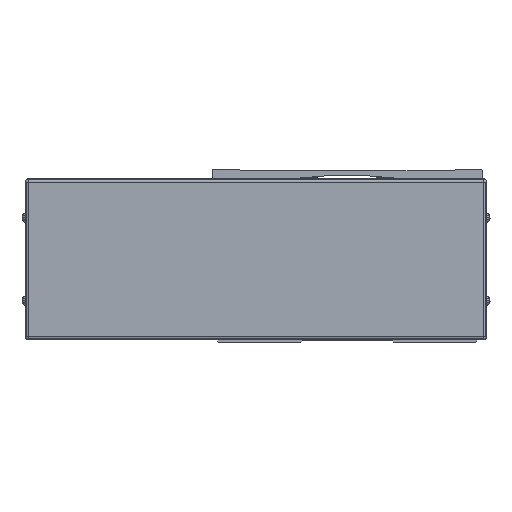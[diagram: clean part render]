
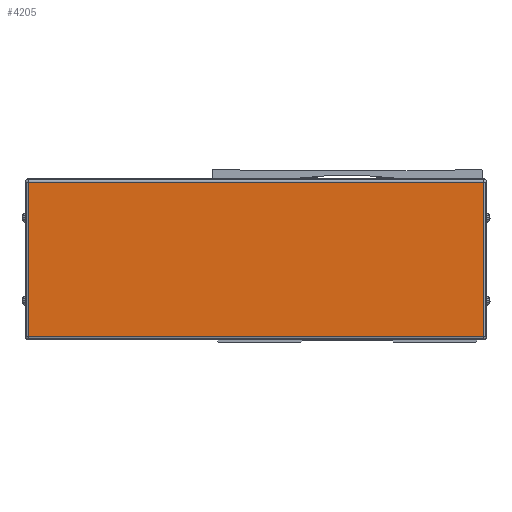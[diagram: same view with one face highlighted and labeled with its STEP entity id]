
A CAD part, front view. The second image highlights one B-rep face of the part: STEP entity #4205.
In plain terms, the highlighted planar face has unit normal (0, -1, 0).
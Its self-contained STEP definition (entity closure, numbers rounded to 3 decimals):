
#4205=ADVANCED_FACE('',(#9472),#9473,.F.);
#9472=FACE_OUTER_BOUND('',#16146,.T.);
#9473=PLANE('',#16147);
#16146=EDGE_LOOP('',(#30888,#30889,#30890,#30891));
#16147=AXIS2_PLACEMENT_3D('',#30892,#30893,#30894);
#30888=ORIENTED_EDGE('',*,*,#45288,.T.);
#30889=ORIENTED_EDGE('',*,*,#45289,.T.);
#30890=ORIENTED_EDGE('',*,*,#42031,.T.);
#30891=ORIENTED_EDGE('',*,*,#45290,.T.);
#30892=CARTESIAN_POINT('',(-655.,-72.778,-2.));
#30893=DIRECTION('',(0.,1.0,0.));
#30894=DIRECTION('',(-1.0,0.,0.));
#42031=EDGE_CURVE('',#50686,#50684,#50687,.T.);
#45288=EDGE_CURVE('',#55498,#55741,#55742,.T.);
#45289=EDGE_CURVE('',#55741,#50686,#55743,.T.);
#45290=EDGE_CURVE('',#50684,#55498,#55744,.T.);
#50684=VERTEX_POINT('',#62969);
#50686=VERTEX_POINT('',#62971);
#50687=LINE('',#62972,#62973);
#55498=VERTEX_POINT('',#70225);
#55741=VERTEX_POINT('',#70623);
#55742=LINE('',#70624,#70625);
#55743=LINE('',#70626,#70627);
#55744=LINE('',#70628,#70629);
#62969=CARTESIAN_POINT('',(-517.9,-72.778,-48.5));
#62971=CARTESIAN_POINT('',(-792.1,-72.778,-48.5));
#62972=CARTESIAN_POINT('',(-655.,-72.778,-48.5));
#62973=VECTOR('',#77211,10.0);
#70225=CARTESIAN_POINT('',(-517.9,-72.778,44.5));
#70623=CARTESIAN_POINT('',(-792.1,-72.778,44.5));
#70624=CARTESIAN_POINT('',(-655.,-72.778,44.5));
#70625=VECTOR('',#81243,10.0);
#70626=CARTESIAN_POINT('',(-792.1,-72.778,-2.));
#70627=VECTOR('',#81244,10.0);
#70628=CARTESIAN_POINT('',(-517.9,-72.778,-2.));
#70629=VECTOR('',#81245,10.0);
#77211=DIRECTION('',(1.0,0.,0.));
#81243=DIRECTION('',(-1.0,0.,0.));
#81244=DIRECTION('',(0.,0.,-1.0));
#81245=DIRECTION('',(0.,0.,1.0));
